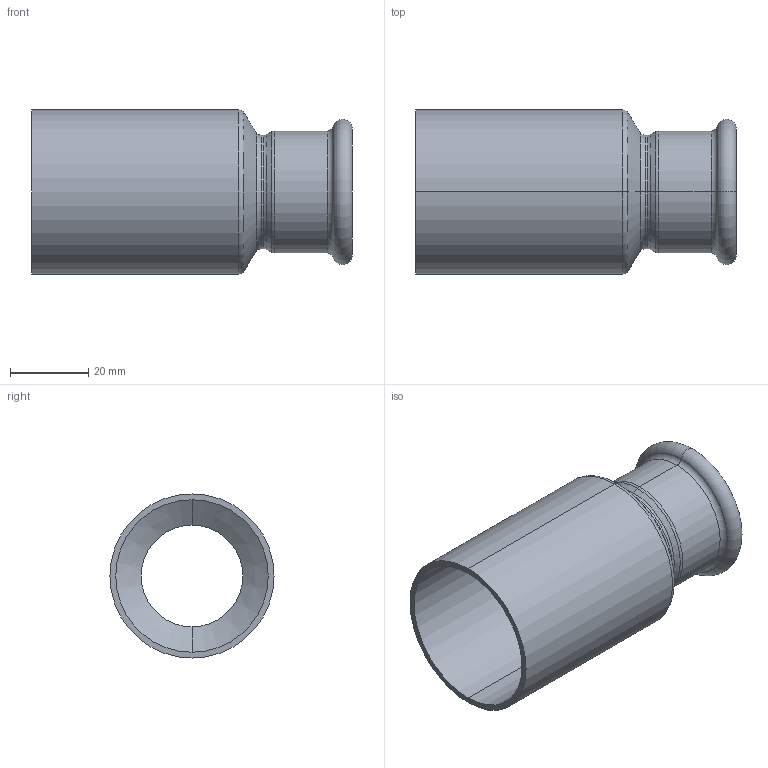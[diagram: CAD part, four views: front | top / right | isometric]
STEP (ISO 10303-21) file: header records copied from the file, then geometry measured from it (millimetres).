
FILE_DESCRIPTION (( 'STEP AP214' ), '1' );
FILE_NAME ('R42280B.STEP', '2025-08-18T00:14:05', ( '' ), ( '' ), 'SwSTEP 2.0', 'SolidWorks 2020', '' );
FILE_SCHEMA (( 'AUTOMOTIVE_DESIGN' ));
Length unit declared in the file: millimetre
Products named in the file (1): R42280B
Bounding box: 82 x 42 x 42 mm (x, y, z)
Volume: 15904.7 mm3; surface area: 20961.9 mm2
Topology: 1 solids, 1 shells, 43 faces, 86 edges, 46 vertices
Faces by surface type: torus 16, cylinder 14, cone 10, plane 3
Entity records: 1192 total; most frequent: DIRECTION 236, CARTESIAN_POINT 176, ORIENTED_EDGE 172, AXIS2_PLACEMENT_3D 106, EDGE_CURVE 86, CIRCLE 62, VERTEX_POINT 46, EDGE_LOOP 46
